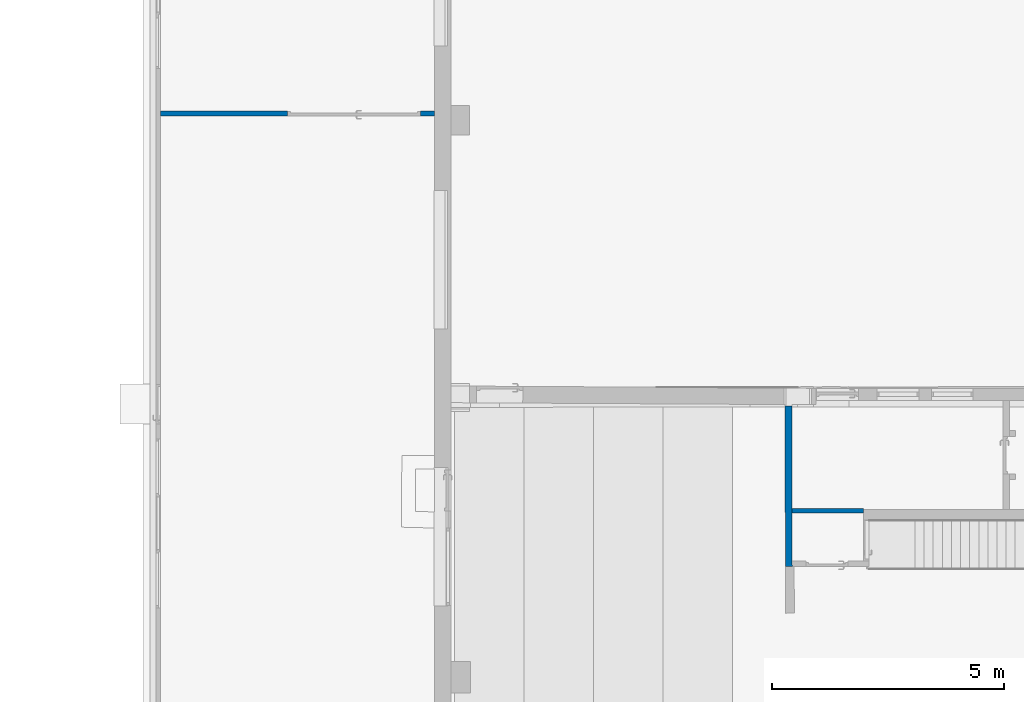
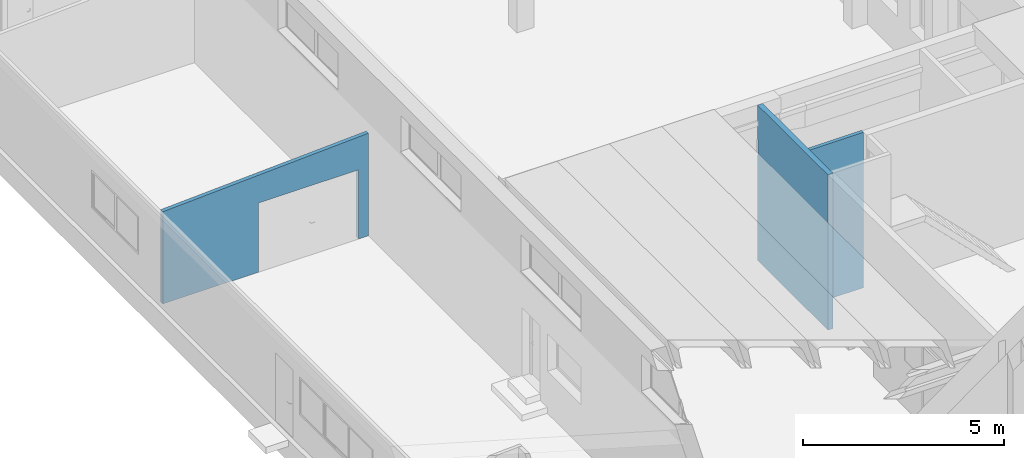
# One storey, part 143 of 301: 3 walls, 1 opening.
"""IFC2X3 building model written with IfcOpenShell, lengths in millimetres."""

from ifc_helpers import new_model, entity, si_unit, converted_unit, derived_unit, money_unit, direction, frame, origin_with_axes, place, context, subcontext, project, spatial, faceted_brep, material, type_object, element, save


model = new_model("IFC2X3")

# Units and contexts
model_context = context("Model", 3, precision=0.01, world=origin_with_axes(), true_north=direction((0.0, 1.0)))
body_context = subcontext(model_context, "Body", "Model", "MODEL_VIEW")
ifc_project = project(units=[si_unit("LENGTHUNIT", "METRE", prefix="MILLI"), si_unit("AREAUNIT", "SQUARE_METRE"), si_unit("VOLUMEUNIT", "CUBIC_METRE"), converted_unit("PLANEANGLEUNIT", "DEGREE", entity("IfcPlaneAngleMeasure", 0.0174532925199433), si_unit("PLANEANGLEUNIT", "RADIAN"), dimensions=[0, 0, 0, 0, 0, 0, 0]), money_unit("EUR"), converted_unit("TIMEUNIT", "Year", entity("IfcTimeMeasure", 31557600.0), si_unit("TIMEUNIT", "SECOND"), dimensions=[0, 0, 1, 0, 0, 0, 0]), si_unit("MASSUNIT", "GRAM", prefix="KILO"), si_unit("THERMODYNAMICTEMPERATUREUNIT", "DEGREE_CELSIUS"), si_unit("LUMINOUSINTENSITYUNIT", "LUMEN"), si_unit("ENERGYUNIT", "JOULE", prefix="MEGA"), derived_unit("THERMALCONDUCTANCEUNIT", [(si_unit("POWERUNIT", "WATT"), 1), (si_unit("LENGTHUNIT", "METRE"), -1), (si_unit("THERMODYNAMICTEMPERATUREUNIT", "KELVIN"), -1)]), derived_unit("SPECIFICHEATCAPACITYUNIT", [(si_unit("ENERGYUNIT", "JOULE"), 1), (si_unit("MASSUNIT", "GRAM", prefix="KILO"), -1), (si_unit("THERMODYNAMICTEMPERATUREUNIT", "KELVIN"), -1)]), derived_unit("MASSDENSITYUNIT", [(si_unit("MASSUNIT", "GRAM", prefix="KILO"), 1), (si_unit("VOLUMEUNIT", "CUBIC_METRE"), -1)])], contexts=[model_context])

# Site, building, storey
site_placement = place(None, frame((0.0, 0.0, 8650.0), z_axis=(0.0, 0.0, 1.0), x_axis=(1.0, 0.0, 0.0)))
site = spatial("IfcSite", under=ifc_project, at=site_placement, Name="43301:001:0844", CompositionType="ELEMENT")
building_placement = place(site_placement, origin_with_axes())
building = spatial("IfcBuilding", under=site, at=building_placement, Name="Kuressaare Ametikooli tuulikute mehaanikute õppekorpus", CompositionType="ELEMENT")
storey_placement = place(building_placement, origin_with_axes())
storey = spatial("IfcBuildingStorey", under=building, at=storey_placement, Name="1.korrus", CompositionType="ELEMENT", Elevation=0.0)

# Wall
ifc_material = material(Name="GENEERILINE - KONSTRUKTRIOON")
wall_type_1 = type_object("IfcWallType", Name="GENEERILINE - KONSTRUKTRIOON 100", PredefinedType="NOTDEFINED")
wall_1_placement = place(storey_placement, frame((97157.59552001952, 71967.00281776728, 44.99999999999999), z_axis=(0.0, 0.0, 1.0), x_axis=(-1.0, 0.0, 0.0)))
element("IfcWall", 1, at=wall_1_placement, inside=storey, type_object=wall_type_1, material=ifc_material, Name="SS-XX", context=body_context, shape_type="Brep", body=[
    faceted_brep([(1536.856132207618, 99.99999999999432, 0.0), (1536.947606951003, 0.0, 0.0), (0.0, 0.0, 0.0), (0.0, 99.99999999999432, 0.0), (1536.856132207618, 99.99999999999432, 4715.0), (1536.947606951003, 0.0, 4715.0), (0.0, 0.0, 4715.0), (0.0, 99.99999999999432, 4715.0)], [[[0, 1, 2, 3]], [[1, 0, 4, 5]], [[1, 5, 6, 2]], [[7, 3, 2, 6]], [[4, 0, 3, 7]], [[5, 4, 7, 6]]]),
])

# Wall, opening
wall_type_2 = type_object("IfcWallType", Name="GENEERILINE - KONSTRUKTRIOON 110", PredefinedType="NOTDEFINED")
wall_2_placement = place(storey_placement, frame((87898.75644683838, 80540.79648192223, -330.0), z_axis=(0.0, 0.0, 1.0), x_axis=(-1.0, 0.0, 0.0)))
wall_2 = element("IfcWall", 2, at=wall_2_placement, inside=storey, type_object=wall_type_2, material=ifc_material, context=body_context, shape_type="Brep", body=[
    faceted_brep([(5906.785178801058, 0.0, 2794.075284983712), (0.0, 0.0, 3113.971789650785), (0.0, 0.0, 0.0), (294.0019416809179, 0.0, 0.0), (294.0019416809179, 0.0, 2100.0), (3164.001941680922, 0.0, 2100.0), (3164.001941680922, 0.0, 0.0), (5906.785178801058, 0.0, 0.0), (0.0, 109.9999999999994, 3113.943741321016), (5906.786020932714, 109.9999999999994, 2794.047191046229), (0.0, 109.9999999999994, 0.0), (294.0019416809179, 109.9999999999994, 0.0), (294.0019416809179, 109.9999999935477, 2100.0), (3164.001941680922, 109.9999999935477, 2100.0), (3164.001941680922, 109.9999999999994, 0.0), (5906.786020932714, 109.9999999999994, 0.0)], [[[0, 1, 2, 3, 4, 5, 6, 7]], [[8, 1, 0, 9]], [[1, 8, 10, 2]], [[10, 11, 3, 2]], [[12, 4, 3, 11]], [[13, 5, 4, 12]], [[14, 6, 5, 13]], [[7, 6, 14, 15]], [[9, 0, 7, 15]], [[8, 9, 15, 14, 13, 12, 11, 10]]]),
])
opening_placement = place(wall_2_placement, frame((1729.00194168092, 0.0, 0.0), z_axis=(0.0, 0.0, 1.0), x_axis=(1.0, 0.0, 0.0)))
element("IfcOpeningElement", 3, at=opening_placement, cuts=wall_2, Name="SU-XX", context=body_context, shape_type="Brep", body=[
    faceted_brep([(-1435.000000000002, -1.000000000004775, 2100.0), (-1435.000000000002, -1.000000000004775, 0.0), (1435.000000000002, -1.000000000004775, 0.0), (1435.000000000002, -1.000000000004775, 2100.0), (-1435.000000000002, 111.0000000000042, 2100.0), (-1435.000000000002, 111.0000000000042, 0.0), (1435.000000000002, 111.0000000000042, 0.0), (1435.000000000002, 111.0000000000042, 2100.0)], [[[0, 1, 2, 3]], [[4, 5, 1, 0]], [[5, 6, 2, 1]], [[6, 7, 3, 2]], [[7, 4, 0, 3]], [[6, 5, 4, 7]]]),
])

# Wall
wall_type_3 = type_object("IfcWallType", Name="GENEERILINE - KONSTRUKTRIOON 150", PredefinedType="NOTDEFINED")
wall_3_placement = place(storey_placement, frame((95471.7970071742, 70710.74691551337, 44.99999999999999), z_axis=(0.0, 0.0, 1.0), x_axis=(-0.0009147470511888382, 0.9999995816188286, 0.0)))
element("IfcWall", 4, at=wall_3_placement, inside=storey, type_object=wall_type_3, material=ifc_material, Name="SS-XX", context=body_context, shape_type="Brep", body=[
    faceted_brep([(0.0, -150.0000000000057, 0.0), (3471.943429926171, -149.9999999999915, 0.0), (3471.943429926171, -149.9999999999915, 3675.0), (3497.219352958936, -150.0000000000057, 3675.0), (3497.219352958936, -150.0000000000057, 4715.0), (0.0, -150.0000000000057, 4715.0), (3498.06345663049, -21.10470304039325, 0.0), (3472.061358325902, -21.08091768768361, 0.0), (0.0, 0.0, 0.0), (3498.201666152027, 0.0, 0.0), (3472.080642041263, 0.0, 3675.0), (3472.061358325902, -21.08091768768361, 3157.979557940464), (3472.080642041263, 0.0, 3200.993266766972), (3498.201666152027, 0.0, 3675.0), (3498.201666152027, 0.0, 4715.0), (0.0, 0.0, 4715.0), (3498.06345663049, -21.10470304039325, 3157.979557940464), (3498.201666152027, 0.0, 3201.04202056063)], [[[0, 1, 2, 3, 4, 5]], [[6, 7, 1, 0, 8, 9]], [[10, 2, 1, 7, 11, 12]], [[13, 3, 2, 10]], [[4, 3, 13, 14]], [[5, 4, 14, 15]], [[8, 0, 5, 15]], [[7, 6, 16, 11]], [[10, 12, 17, 9, 8, 15, 14, 13]], [[17, 16, 6, 9]], [[12, 11, 16, 17]]]),
])

save(model, "model.ifc")
